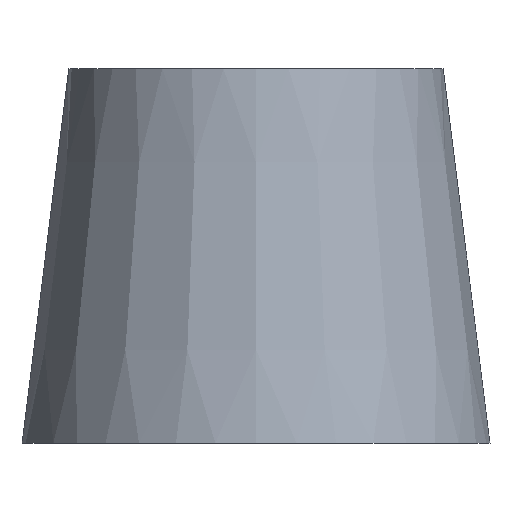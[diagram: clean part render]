
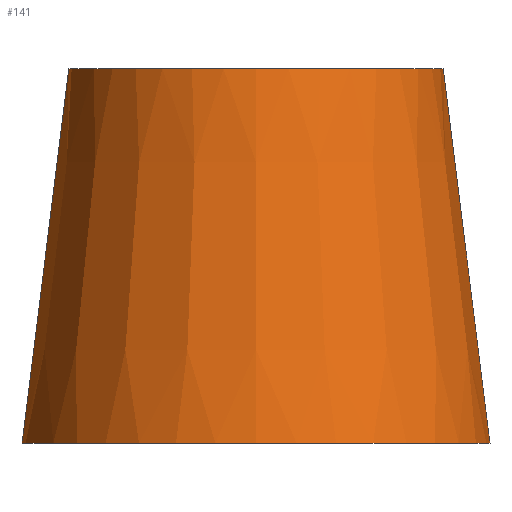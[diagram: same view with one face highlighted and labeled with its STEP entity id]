
A CAD part, front view. The second image highlights one B-rep face of the part: STEP entity #141.
In plain terms, the highlighted conical face has half-angle 7.125 degrees and reference radius 31.75 mm.
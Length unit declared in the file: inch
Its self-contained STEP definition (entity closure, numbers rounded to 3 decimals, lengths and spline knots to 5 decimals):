
#5 = ORIENTED_EDGE ( 'NONE', *, *, #31, .T. ) ;
#7 = CARTESIAN_POINT ( 'NONE',  ( 0., 0., 0. ) ) ;
#17 = DIRECTION ( 'NONE',  ( 0., 0., 1. ) ) ;
#21 = CARTESIAN_POINT ( 'NONE',  ( 0., 0., -2. ) ) ;
#22 = CARTESIAN_POINT ( 'NONE',  ( 1.25, 0., -2. ) ) ;
#29 = CIRCLE ( 'NONE', #186, 1. ) ;
#31 = EDGE_CURVE ( 'NONE', #133, #40, #152, .T. ) ;
#40 = VERTEX_POINT ( 'NONE', #192 ) ;
#51 = CARTESIAN_POINT ( 'NONE',  ( -1., 0., 0. ) ) ;
#82 = CARTESIAN_POINT ( 'NONE',  ( 1., 0., 0. ) ) ;
#85 = DIRECTION ( 'NONE',  ( 0., 0., -1. ) ) ;
#87 = DIRECTION ( 'NONE',  ( 1., 0., 0. ) ) ;
#97 = DIRECTION ( 'NONE',  ( 1., 0., 0. ) ) ;
#104 = CARTESIAN_POINT ( 'NONE',  ( -1.25, 0., -2. ) ) ;
#116 = LINE ( 'NONE', #22, #154 ) ;
#119 = DIRECTION ( 'NONE',  ( -0.124, 0., -0.992 ) ) ;
#124 = EDGE_CURVE ( 'NONE', #40, #220, #171, .T. ) ;
#128 = AXIS2_PLACEMENT_3D ( 'NONE', #21, #85, #148 ) ;
#130 = CARTESIAN_POINT ( 'NONE',  ( 0., 0., -2. ) ) ;
#133 = VERTEX_POINT ( 'NONE', #51 ) ;
#137 = DIRECTION ( 'NONE',  ( 0., 0., 1. ) ) ;
#141 = ADVANCED_FACE ( 'NONE', ( #166 ), #217, .T. ) ;
#148 = DIRECTION ( 'NONE',  ( -1., 0., 0. ) ) ;
#152 = LINE ( 'NONE', #104, #167 ) ;
#154 = VECTOR ( 'NONE', #170, 39.37008 ) ;
#161 = ORIENTED_EDGE ( 'NONE', *, *, #164, .F. ) ;
#162 = EDGE_CURVE ( 'NONE', #133, #222, #29, .T. ) ;
#164 = EDGE_CURVE ( 'NONE', #222, #220, #116, .T. ) ;
#166 = FACE_OUTER_BOUND ( 'NONE', #190, .T. ) ;
#167 = VECTOR ( 'NONE', #119, 39.37008 ) ;
#170 = DIRECTION ( 'NONE',  ( 0.124, 0., -0.992 ) ) ;
#171 = CIRCLE ( 'NONE', #183, 1.25 ) ;
#174 = ORIENTED_EDGE ( 'NONE', *, *, #162, .F. ) ;
#183 = AXIS2_PLACEMENT_3D ( 'NONE', #130, #17, #97 ) ;
#186 = AXIS2_PLACEMENT_3D ( 'NONE', #7, #137, #87 ) ;
#190 = EDGE_LOOP ( 'NONE', ( #161, #174, #5, #199 ) ) ;
#192 = CARTESIAN_POINT ( 'NONE',  ( -1.25, 0., -2. ) ) ;
#199 = ORIENTED_EDGE ( 'NONE', *, *, #124, .T. ) ;
#216 = CARTESIAN_POINT ( 'NONE',  ( 1.25, 0., -2. ) ) ;
#217 = CONICAL_SURFACE ( 'NONE', #128, 1.25, 0.124 ) ;
#220 = VERTEX_POINT ( 'NONE', #216 ) ;
#222 = VERTEX_POINT ( 'NONE', #82 ) ;
